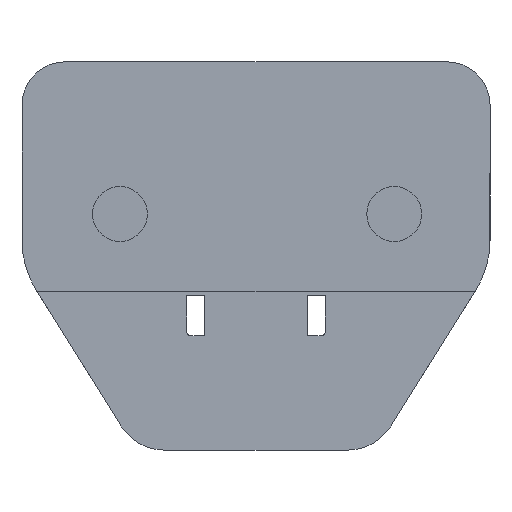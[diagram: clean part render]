
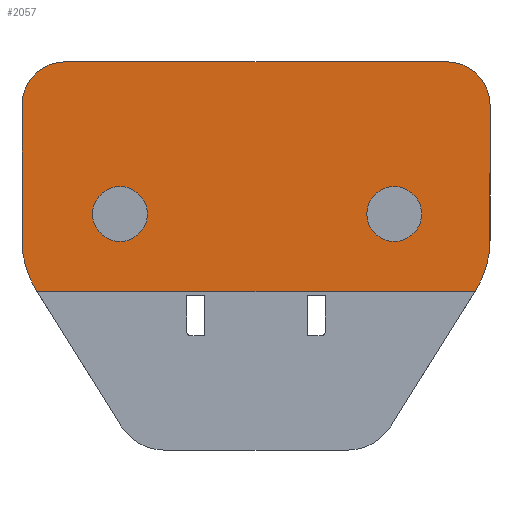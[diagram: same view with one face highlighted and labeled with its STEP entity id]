
A CAD part, front view. The second image highlights one B-rep face of the part: STEP entity #2057.
In plain terms, the highlighted planar face has unit normal (0, -1, 0).
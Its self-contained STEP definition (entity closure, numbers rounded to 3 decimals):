
#44 = VERTEX_POINT ( 'NONE', #1302 ) ;
#85 = CIRCLE ( 'NONE', #2925, 3.2 ) ;
#95 = CARTESIAN_POINT ( 'NONE',  ( -54.372, -12.743, -4.12 ) ) ;
#104 = EDGE_LOOP ( 'NONE', ( #2566, #2065, #713, #416, #1909, #1696, #1426, #1450, #613, #1718 ) ) ;
#122 = DIRECTION ( 'NONE',  ( 1., 0., 0. ) ) ;
#124 = VERTEX_POINT ( 'NONE', #467 ) ;
#172 = EDGE_CURVE ( 'NONE', #220, #2090, #2545, .T. ) ;
#207 = DIRECTION ( 'NONE',  ( 0., -1., 0. ) ) ;
#213 = PLANE ( 'NONE',  #2047 ) ;
#220 = VERTEX_POINT ( 'NONE', #3085 ) ;
#253 = EDGE_CURVE ( 'NONE', #124, #497, #1816, .T. ) ;
#276 = CIRCLE ( 'NONE', #472, 3.2 ) ;
#283 = ORIENTED_EDGE ( 'NONE', *, *, #253, .F. ) ;
#320 = EDGE_CURVE ( 'NONE', #44, #2903, #2312, .T. ) ;
#370 = CARTESIAN_POINT ( 'NONE',  ( -45.122, -12.743, 1.834 ) ) ;
#374 = DIRECTION ( 'NONE',  ( -1., 0., 0. ) ) ;
#375 = AXIS2_PLACEMENT_3D ( 'NONE', #978, #2455, #731 ) ;
#377 = CARTESIAN_POINT ( 'NONE',  ( -1.522, -12.743, 17.68 ) ) ;
#378 = CARTESIAN_POINT ( 'NONE',  ( -12.693, -12.743, 4.93 ) ) ;
#391 = LINE ( 'NONE', #1778, #949 ) ;
#416 = ORIENTED_EDGE ( 'NONE', *, *, #3092, .F. ) ;
#423 = EDGE_LOOP ( 'NONE', ( #283, #492 ) ) ;
#435 = FACE_OUTER_BOUND ( 'NONE', #104, .T. ) ;
#467 = CARTESIAN_POINT ( 'NONE',  ( -12.693, -12.743, 1.73 ) ) ;
#470 = DIRECTION ( 'NONE',  ( 0., 0., -1. ) ) ;
#472 = AXIS2_PLACEMENT_3D ( 'NONE', #2713, #1719, #633 ) ;
#483 = VECTOR ( 'NONE', #374, 1000. ) ;
#492 = ORIENTED_EDGE ( 'NONE', *, *, #2774, .F. ) ;
#497 = VERTEX_POINT ( 'NONE', #1473 ) ;
#505 = FACE_BOUND ( 'NONE', #423, .T. ) ;
#579 = EDGE_CURVE ( 'NONE', #987, #597, #85, .T. ) ;
#585 = DIRECTION ( 'NONE',  ( 0., 0., 1. ) ) ;
#597 = VERTEX_POINT ( 'NONE', #939 ) ;
#608 = VECTOR ( 'NONE', #2242, 1000. ) ;
#613 = ORIENTED_EDGE ( 'NONE', *, *, #1353, .F. ) ;
#629 = VECTOR ( 'NONE', #585, 1000. ) ;
#633 = DIRECTION ( 'NONE',  ( 1., 0., 0. ) ) ;
#713 = ORIENTED_EDGE ( 'NONE', *, *, #2232, .F. ) ;
#731 = DIRECTION ( 'NONE',  ( 1., 0., 0. ) ) ;
#733 = DIRECTION ( 'NONE',  ( 0., -1., 0. ) ) ;
#791 = DIRECTION ( 'NONE',  ( -0.53, 0., 0.848 ) ) ;
#875 = DIRECTION ( 'NONE',  ( 1., 0., 0. ) ) ;
#939 = CARTESIAN_POINT ( 'NONE',  ( -44.693, -12.743, 8.13 ) ) ;
#949 = VECTOR ( 'NONE', #791, 1000. ) ;
#978 = CARTESIAN_POINT ( 'NONE',  ( -6.522, -12.743, 17.68 ) ) ;
#982 = DIRECTION ( 'NONE',  ( 1., 0., 0. ) ) ;
#987 = VERTEX_POINT ( 'NONE', #2514 ) ;
#1088 = EDGE_CURVE ( 'NONE', #3131, #2402, #1306, .T. ) ;
#1118 = CARTESIAN_POINT ( 'NONE',  ( -12.522, -12.743, 1.834 ) ) ;
#1166 = EDGE_CURVE ( 'NONE', #220, #3029, #2957, .T. ) ;
#1221 = EDGE_CURVE ( 'NONE', #2877, #2839, #2804, .T. ) ;
#1233 = EDGE_CURVE ( 'NONE', #597, #987, #276, .T. ) ;
#1283 = LINE ( 'NONE', #3036, #629 ) ;
#1302 = CARTESIAN_POINT ( 'NONE',  ( -56.122, -12.743, 17.68 ) ) ;
#1306 = CIRCLE ( 'NONE', #375, 5. ) ;
#1353 = EDGE_CURVE ( 'NONE', #2903, #3131, #2416, .T. ) ;
#1378 = EDGE_LOOP ( 'NONE', ( #1764, #2542 ) ) ;
#1426 = ORIENTED_EDGE ( 'NONE', *, *, #2157, .F. ) ;
#1446 = DIRECTION ( 'NONE',  ( 0., -1., 0. ) ) ;
#1450 = ORIENTED_EDGE ( 'NONE', *, *, #1088, .F. ) ;
#1473 = CARTESIAN_POINT ( 'NONE',  ( -12.693, -12.743, 8.13 ) ) ;
#1563 = CARTESIAN_POINT ( 'NONE',  ( -3.271, -12.743, -4.12 ) ) ;
#1608 = CARTESIAN_POINT ( 'NONE',  ( -6.522, -12.743, 22.68 ) ) ;
#1627 = DIRECTION ( 'NONE',  ( 1., 0., 0. ) ) ;
#1674 = DIRECTION ( 'NONE',  ( 1., 0., 0. ) ) ;
#1689 = CARTESIAN_POINT ( 'NONE',  ( -37.393, -12.743, -2.92 ) ) ;
#1696 = ORIENTED_EDGE ( 'NONE', *, *, #172, .T. ) ;
#1718 = ORIENTED_EDGE ( 'NONE', *, *, #320, .F. ) ;
#1719 = DIRECTION ( 'NONE',  ( 0., -1., 0. ) ) ;
#1745 = CARTESIAN_POINT ( 'NONE',  ( -1.522, -12.743, -4.12 ) ) ;
#1764 = ORIENTED_EDGE ( 'NONE', *, *, #579, .F. ) ;
#1769 = VECTOR ( 'NONE', #3142, 1000. ) ;
#1778 = CARTESIAN_POINT ( 'NONE',  ( -50.143, -12.743, -10.887 ) ) ;
#1808 = VECTOR ( 'NONE', #2645, 1000. ) ;
#1816 = CIRCLE ( 'NONE', #2327, 3.2 ) ;
#1841 = DIRECTION ( 'NONE',  ( 0., -1., 0. ) ) ;
#1909 = ORIENTED_EDGE ( 'NONE', *, *, #1166, .F. ) ;
#1929 = CARTESIAN_POINT ( 'NONE',  ( -44.693, -12.743, 4.93 ) ) ;
#1935 = DIRECTION ( 'NONE',  ( 0., -1., 0. ) ) ;
#2012 = AXIS2_PLACEMENT_3D ( 'NONE', #1118, #2598, #875 ) ;
#2047 = AXIS2_PLACEMENT_3D ( 'NONE', #1689, #1935, #470 ) ;
#2057 = ADVANCED_FACE ( 'NONE', ( #435, #505, #2956 ), #213, .T. ) ;
#2065 = ORIENTED_EDGE ( 'NONE', *, *, #1221, .T. ) ;
#2090 = VERTEX_POINT ( 'NONE', #2681 ) ;
#2111 = CIRCLE ( 'NONE', #2403, 3.2 ) ;
#2157 = EDGE_CURVE ( 'NONE', #2402, #2090, #3147, .T. ) ;
#2207 = CARTESIAN_POINT ( 'NONE',  ( -12.693, -12.743, 4.93 ) ) ;
#2232 = EDGE_CURVE ( 'NONE', #3022, #2839, #391, .T. ) ;
#2242 = DIRECTION ( 'NONE',  ( 0., 0., -1. ) ) ;
#2267 = CARTESIAN_POINT ( 'NONE',  ( -51.122, -12.743, 22.68 ) ) ;
#2312 = CIRCLE ( 'NONE', #2987, 5. ) ;
#2327 = AXIS2_PLACEMENT_3D ( 'NONE', #378, #1841, #122 ) ;
#2402 = VERTEX_POINT ( 'NONE', #377 ) ;
#2403 = AXIS2_PLACEMENT_3D ( 'NONE', #2207, #733, #2459 ) ;
#2416 = LINE ( 'NONE', #2661, #1769 ) ;
#2455 = DIRECTION ( 'NONE',  ( 0., 1., 0. ) ) ;
#2459 = DIRECTION ( 'NONE',  ( 1., 0., 0. ) ) ;
#2462 = DIRECTION ( 'NONE',  ( 0., 1., 0. ) ) ;
#2480 = CARTESIAN_POINT ( 'NONE',  ( -54.45, -12.743, -3.995 ) ) ;
#2514 = CARTESIAN_POINT ( 'NONE',  ( -44.693, -12.743, 1.73 ) ) ;
#2542 = ORIENTED_EDGE ( 'NONE', *, *, #1233, .F. ) ;
#2545 = CIRCLE ( 'NONE', #2012, 11. ) ;
#2566 = ORIENTED_EDGE ( 'NONE', *, *, #3044, .F. ) ;
#2598 = DIRECTION ( 'NONE',  ( 0., -1., 0. ) ) ;
#2634 = CARTESIAN_POINT ( 'NONE',  ( -12.314, -12.743, -18.591 ) ) ;
#2645 = DIRECTION ( 'NONE',  ( -0.53, 0., -0.848 ) ) ;
#2661 = CARTESIAN_POINT ( 'NONE',  ( -6.522, -12.743, 22.68 ) ) ;
#2681 = CARTESIAN_POINT ( 'NONE',  ( -1.522, -12.743, 1.834 ) ) ;
#2713 = CARTESIAN_POINT ( 'NONE',  ( -44.693, -12.743, 4.93 ) ) ;
#2720 = CARTESIAN_POINT ( 'NONE',  ( -56.122, -12.743, 1.834 ) ) ;
#2774 = EDGE_CURVE ( 'NONE', #497, #124, #2111, .T. ) ;
#2804 = CIRCLE ( 'NONE', #2832, 11. ) ;
#2832 = AXIS2_PLACEMENT_3D ( 'NONE', #370, #1446, #1627 ) ;
#2839 = VERTEX_POINT ( 'NONE', #2480 ) ;
#2877 = VERTEX_POINT ( 'NONE', #2720 ) ;
#2903 = VERTEX_POINT ( 'NONE', #2267 ) ;
#2925 = AXIS2_PLACEMENT_3D ( 'NONE', #1929, #207, #1674 ) ;
#2953 = CARTESIAN_POINT ( 'NONE',  ( -51.122, -12.743, 17.68 ) ) ;
#2956 = FACE_BOUND ( 'NONE', #1378, .T. ) ;
#2957 = LINE ( 'NONE', #2634, #1808 ) ;
#2987 = AXIS2_PLACEMENT_3D ( 'NONE', #2953, #2462, #982 ) ;
#3012 = LINE ( 'NONE', #3055, #483 ) ;
#3022 = VERTEX_POINT ( 'NONE', #95 ) ;
#3029 = VERTEX_POINT ( 'NONE', #1563 ) ;
#3036 = CARTESIAN_POINT ( 'NONE',  ( -56.122, -12.743, 17.68 ) ) ;
#3044 = EDGE_CURVE ( 'NONE', #2877, #44, #1283, .T. ) ;
#3055 = CARTESIAN_POINT ( 'NONE',  ( -56.122, -12.743, -4.12 ) ) ;
#3085 = CARTESIAN_POINT ( 'NONE',  ( -3.193, -12.743, -3.995 ) ) ;
#3092 = EDGE_CURVE ( 'NONE', #3029, #3022, #3012, .T. ) ;
#3131 = VERTEX_POINT ( 'NONE', #1608 ) ;
#3142 = DIRECTION ( 'NONE',  ( 1., 0., 0. ) ) ;
#3147 = LINE ( 'NONE', #1745, #608 ) ;
